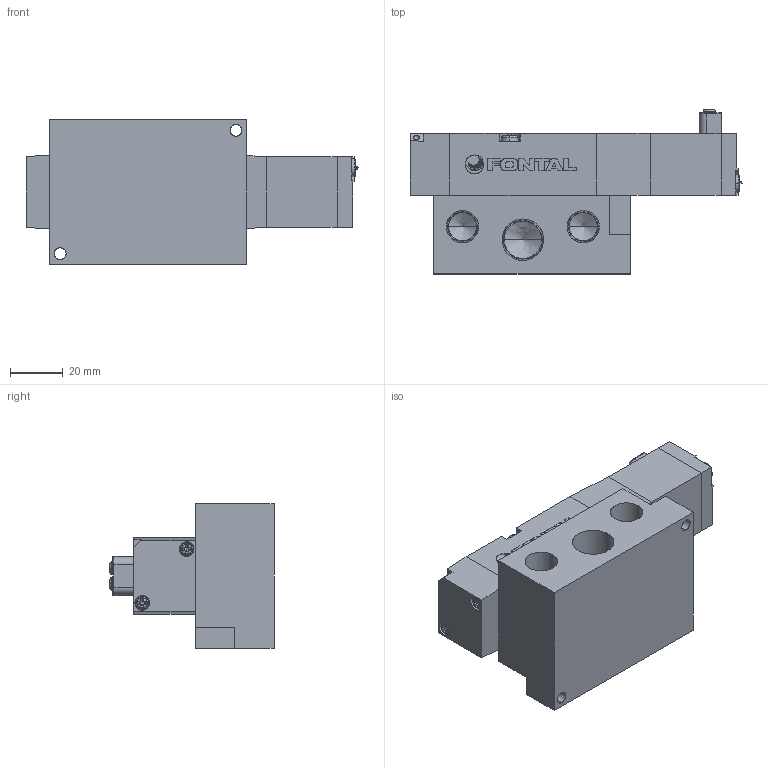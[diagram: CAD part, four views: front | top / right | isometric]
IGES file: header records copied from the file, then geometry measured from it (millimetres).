
Start section: SolidWorks IGES file using analytic representation for surfaces
Global section: file name: D:\Custom\3D繪製\PC\PC08\PCS2408#-03-#L#.IGS,1; native system: 5HSolidWorks 2014; preprocessor: SolidWorks 2014; author: Chieh_Lu; date: 150801.025730; units: millimetre
Bounding box: 126.47 x 62.5 x 55 mm (x, y, z)
Surface area: 42234.4 mm2 (no closed solid volume)
Topology: 0 solids, 0 shells, 464 faces, 4620 edges, 4590 vertices
Faces by surface type: bspline 296, revolution 168
